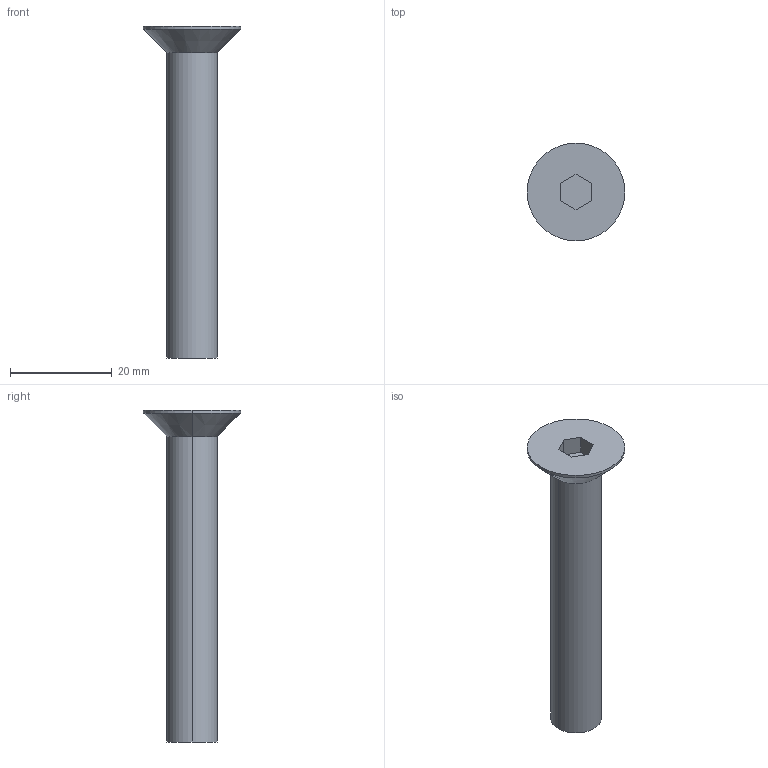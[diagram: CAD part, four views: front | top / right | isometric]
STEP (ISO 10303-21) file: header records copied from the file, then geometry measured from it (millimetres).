
FILE_DESCRIPTION (( 'STEP AP214' ), '1' );
FILE_NAME ('COUNTERSHUNK_HEAD_BOLT_M10(L=060).STEP', '2021-09-18T10:23:06', ( '' ), ( '' ), 'SwSTEP 2.0', 'SolidWorks 2018', '' );
FILE_SCHEMA (( 'AUTOMOTIVE_DESIGN' ));
Length unit declared in the file: millimetre
Products named in the file (1): COUNTERSHUNK_HEAD_BOLT_M10(L=060)
Bounding box: 19.22 x 19.22 x 65.22 mm (x, y, z)
Volume: 5575.6 mm3; surface area: 2664.5 mm2
Topology: 1 solids, 1 shells, 15 faces, 32 edges, 20 vertices
Faces by surface type: plane 9, cylinder 4, cone 2
Entity records: 436 total; most frequent: DIRECTION 72, CARTESIAN_POINT 68, ORIENTED_EDGE 64, EDGE_CURVE 32, VECTOR 24, LINE 24, AXIS2_PLACEMENT_3D 24, VERTEX_POINT 20
